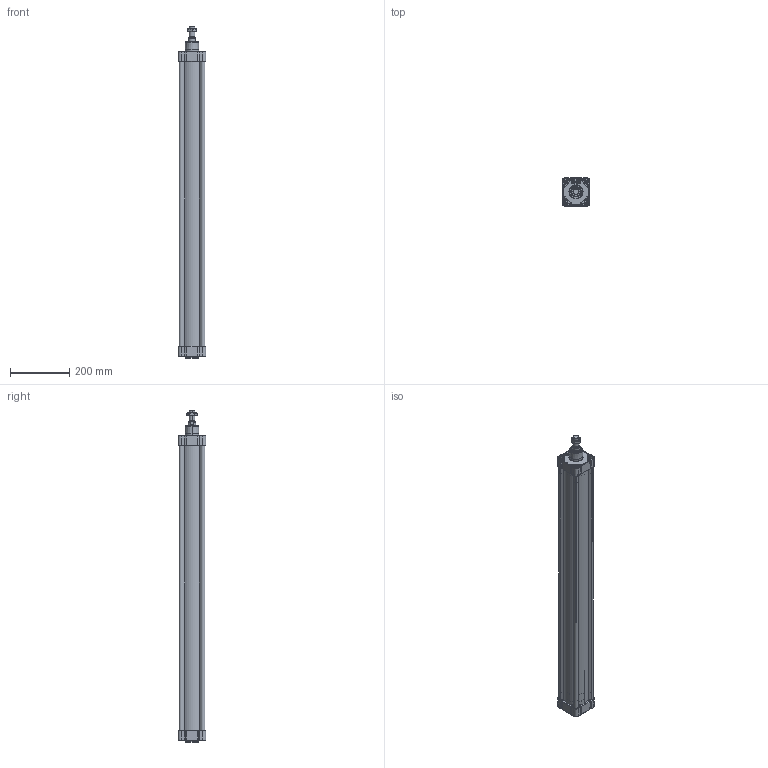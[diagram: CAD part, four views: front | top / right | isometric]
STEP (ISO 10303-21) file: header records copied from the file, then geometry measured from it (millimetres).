
FILE_DESCRIPTION (( 'STEP AP214' ), '1' );
FILE_NAME ('E11M20800900.STEP', '2021-10-27T12:45:52', ( '' ), ( '' ), 'SwSTEP 2.0', 'SolidWorks 2016', '' );
FILE_SCHEMA (( 'AUTOMOTIVE_DESIGN' ));
Length unit declared in the file: millimetre
Products named in the file (7): 21.753.0; 000.534.7_000.534.0900; Pistone Ø80 ISO 15552; TA Ø80 ISO 15552 WEB; TP Ø80 ISO 15552 WEB; E11M20800900; 21.E01.0000_21.E01.0900
Assembly tree (6 placements, depth 2):
  E11M20800900
    TP Ø80 ISO 15552 WEB
    TA Ø80 ISO 15552 WEB
    Pistone Ø80 ISO 15552
    21.E01.0000_21.E01.0900
    000.534.7_000.534.0900
    21.753.0
Bounding box: 93.95 x 93.97 x 1119 mm (x, y, z)
Volume: 2225379.1 mm3; surface area: 1125606 mm2
Topology: 17 solids, 18 shells, 2128 faces, 5468 edges, 3473 vertices
Faces by surface type: plane 874, cylinder 689, cone 262, bspline 214, torus 85, sphere 4
Entity records: 91998 total; most frequent: CARTESIAN_POINT 20658, ORIENTED_EDGE 10892, DIRECTION 10080, EDGE_CURVE 5446, AXIS2_PLACEMENT_3D 3595, VERTEX_POINT 3473, VECTOR 2890, LINE 2890
